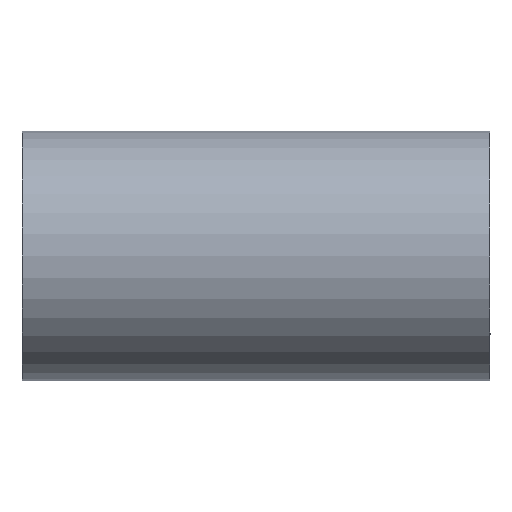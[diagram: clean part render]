
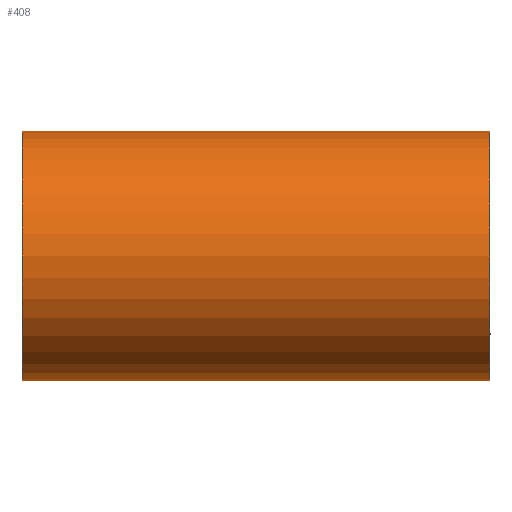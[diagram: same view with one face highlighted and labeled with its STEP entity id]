
A CAD part, front view. The second image highlights one B-rep face of the part: STEP entity #408.
In plain terms, the highlighted cylindrical face has radius 44.5 mm (diameter 89 mm), a full revolution.
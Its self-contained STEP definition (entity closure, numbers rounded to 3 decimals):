
#16=FACE_BOUND('',#102,.T.);
#17=FACE_BOUND('',#103,.T.);
#26=ELLIPSE('',#433,62.933,44.5);
#27=ELLIPSE('',#434,62.933,44.5);
#29=CYLINDRICAL_SURFACE('',#431,44.5);
#75=FACE_OUTER_BOUND('',#101,.T.);
#101=EDGE_LOOP('',(#343));
#102=EDGE_LOOP('',(#344,#345));
#103=EDGE_LOOP('',(#346));
#124=CIRCLE('',#432,44.5);
#125=CIRCLE('',#435,44.5);
#195=VERTEX_POINT('',#22628);
#196=VERTEX_POINT('',#22630);
#197=VERTEX_POINT('',#22631);
#198=VERTEX_POINT('',#22634);
#253=EDGE_CURVE('',#195,#195,#124,.T.);
#254=EDGE_CURVE('',#196,#197,#26,.T.);
#255=EDGE_CURVE('',#197,#196,#27,.T.);
#256=EDGE_CURVE('',#198,#198,#125,.T.);
#343=ORIENTED_EDGE('',*,*,#253,.F.);
#344=ORIENTED_EDGE('',*,*,#254,.T.);
#345=ORIENTED_EDGE('',*,*,#255,.T.);
#346=ORIENTED_EDGE('',*,*,#256,.F.);
#408=ADVANCED_FACE('',(#75,#16,#17),#29,.T.);
#431=AXIS2_PLACEMENT_3D('',#22627,#483,#484);
#432=AXIS2_PLACEMENT_3D('',#22629,#485,#486);
#433=AXIS2_PLACEMENT_3D('',#22632,#487,#488);
#434=AXIS2_PLACEMENT_3D('',#22633,#489,#490);
#435=AXIS2_PLACEMENT_3D('',#22635,#491,#492);
#483=DIRECTION('center_axis',(1.,0.,0.));
#484=DIRECTION('ref_axis',(0.,-1.,0.));
#485=DIRECTION('center_axis',(-1.,0.,0.));
#486=DIRECTION('ref_axis',(0.,-1.,0.));
#487=DIRECTION('center_axis',(-0.707,-0.707,0.));
#488=DIRECTION('ref_axis',(0.707,-0.707,0.));
#489=DIRECTION('center_axis',(0.707,-0.707,0.));
#490=DIRECTION('ref_axis',(0.707,0.707,0.));
#491=DIRECTION('center_axis',(1.,0.,0.));
#492=DIRECTION('ref_axis',(0.,-1.,0.));
#22627=CARTESIAN_POINT('Origin',(0.,0.,0.));
#22628=CARTESIAN_POINT('',(-83.5,44.5,0.));
#22629=CARTESIAN_POINT('Origin',(-83.5,0.,0.));
#22630=CARTESIAN_POINT('',(0.,0.,44.5));
#22631=CARTESIAN_POINT('',(0.,0.,-44.5));
#22632=CARTESIAN_POINT('Origin',(0.,0.,0.));
#22633=CARTESIAN_POINT('Origin',(0.,0.,0.));
#22634=CARTESIAN_POINT('',(83.5,44.5,0.));
#22635=CARTESIAN_POINT('Origin',(83.5,0.,0.));
